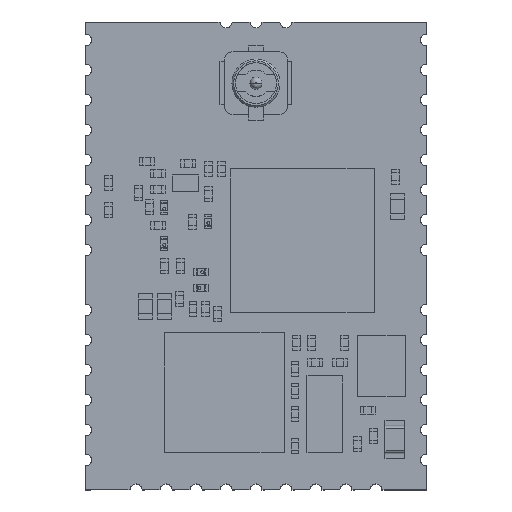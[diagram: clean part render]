
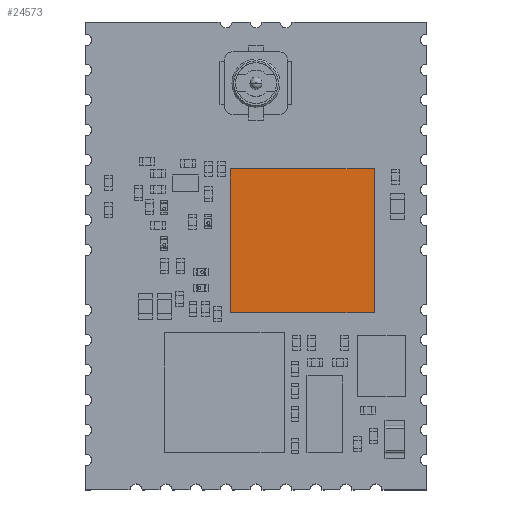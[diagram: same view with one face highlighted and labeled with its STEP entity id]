
A CAD part, top view. The second image highlights one B-rep face of the part: STEP entity #24573.
In plain terms, the highlighted planar face has unit normal (0, 0, 1).
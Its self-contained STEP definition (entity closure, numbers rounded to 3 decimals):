
#24444 = VERTEX_POINT('',#24445);
#24445 = CARTESIAN_POINT('',(-3.,-3.,1.));
#24451 = EDGE_CURVE('',#24444,#24452,#24454,.T.);
#24452 = VERTEX_POINT('',#24453);
#24453 = CARTESIAN_POINT('',(3.,-3.,1.));
#24454 = LINE('',#24455,#24456);
#24455 = CARTESIAN_POINT('',(-3.,-3.,1.));
#24456 = VECTOR('',#24457,1.);
#24457 = DIRECTION('',(1.,0.,0.));
#24482 = EDGE_CURVE('',#24452,#24483,#24485,.T.);
#24483 = VERTEX_POINT('',#24484);
#24484 = CARTESIAN_POINT('',(3.,3.,1.));
#24485 = LINE('',#24486,#24487);
#24486 = CARTESIAN_POINT('',(3.,-3.,1.));
#24487 = VECTOR('',#24488,1.);
#24488 = DIRECTION('',(0.,1.,0.));
#24513 = EDGE_CURVE('',#24483,#24514,#24516,.T.);
#24514 = VERTEX_POINT('',#24515);
#24515 = CARTESIAN_POINT('',(-3.,3.,1.));
#24516 = LINE('',#24517,#24518);
#24517 = CARTESIAN_POINT('',(3.,3.,1.));
#24518 = VECTOR('',#24519,1.);
#24519 = DIRECTION('',(-1.,0.,0.));
#24544 = EDGE_CURVE('',#24514,#24444,#24545,.T.);
#24545 = LINE('',#24546,#24547);
#24546 = CARTESIAN_POINT('',(-3.,3.,1.));
#24547 = VECTOR('',#24548,1.);
#24548 = DIRECTION('',(0.,-1.,0.));
#24573 = ADVANCED_FACE('',(#24574),#24580,.F.);
#24574 = FACE_BOUND('',#24575,.T.);
#24575 = EDGE_LOOP('',(#24576,#24577,#24578,#24579));
#24576 = ORIENTED_EDGE('',*,*,#24451,.T.);
#24577 = ORIENTED_EDGE('',*,*,#24482,.T.);
#24578 = ORIENTED_EDGE('',*,*,#24513,.T.);
#24579 = ORIENTED_EDGE('',*,*,#24544,.T.);
#24580 = PLANE('',#24581);
#24581 = AXIS2_PLACEMENT_3D('',#24582,#24583,#24584);
#24582 = CARTESIAN_POINT('',(-3.,-3.,1.));
#24583 = DIRECTION('',(0.,0.,-1.));
#24584 = DIRECTION('',(-1.,0.,0.));
